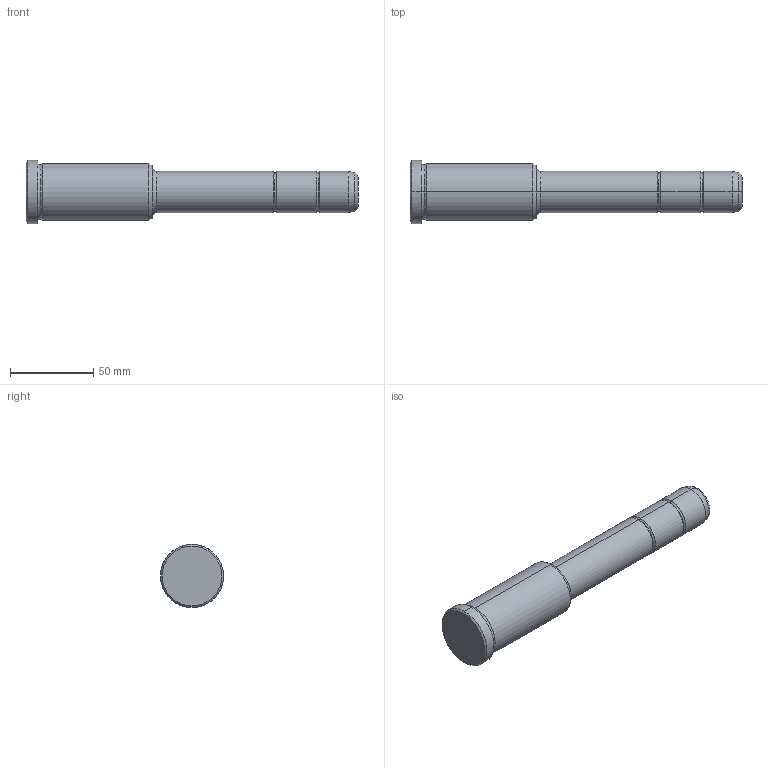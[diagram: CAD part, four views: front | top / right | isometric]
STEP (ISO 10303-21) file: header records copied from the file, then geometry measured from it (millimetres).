
FILE_DESCRIPTION(('CATIA V5 STEP Exchange'),'2;1');
FILE_NAME('C:\Users\Utente\Desktop\IO LAVORO\3D X SITO CF\X SITO\PLASTICA\351\351-25X76X200.stp','2021-09-07T11:32:34+00:00',('none'),('none'),'CATIA Version 5 Release 20 GA (IN-10)','CATIA V5 STEP AP203','none');
FILE_SCHEMA(('CONFIG_CONTROL_DESIGN'));
Length unit declared in the file: millimetre
Products named in the file (1): 351-25X76X200
Bounding box: 200 x 38 x 38 mm (x, y, z)
Volume: 130664.6 mm3; surface area: 19903 mm2
Topology: 1 solids, 1 shells, 36 faces, 102 edges, 70 vertices
Faces by surface type: torus 16, cylinder 10, cone 6, plane 4
Entity records: 1292 total; most frequent: CARTESIAN_POINT 321, ORIENTED_EDGE 204, DIRECTION 166, AXIS2_PLACEMENT_3D 115, EDGE_CURVE 102, CIRCLE 78, VERTEX_POINT 70, EDGE_LOOP 38
